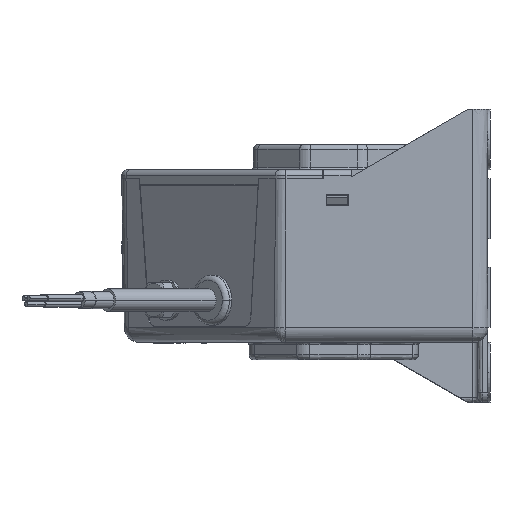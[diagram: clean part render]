
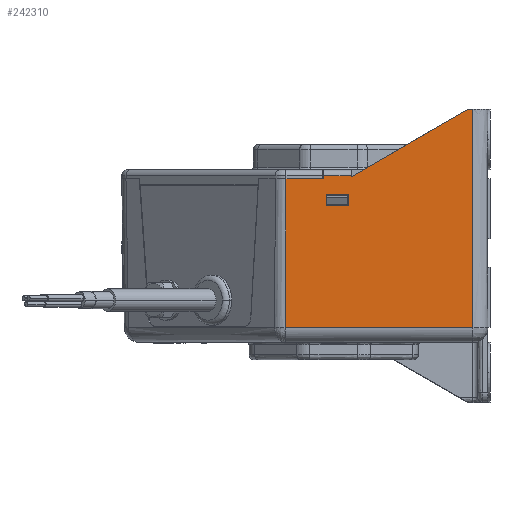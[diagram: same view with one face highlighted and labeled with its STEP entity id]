
A CAD part, left-side view. The second image highlights one B-rep face of the part: STEP entity #242310.
In plain terms, the highlighted planar face has unit normal (-1, 0, -0.018).
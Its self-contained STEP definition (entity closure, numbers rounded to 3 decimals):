
#6170=CARTESIAN_POINT('',(-42.944,1.45,29.4));
#6180=VERTEX_POINT('',#6170);
#6350=CARTESIAN_POINT('',(-42.906,1.45,27.2));
#6360=VERTEX_POINT('',#6350);
#6390=CARTESIAN_POINT('',(-42.431,1.45,0.));
#6400=DIRECTION('',(0.017,0.,-1.));
#6410=VECTOR('',#6400,1.);
#6420=LINE('',#6390,#6410);
#6430=EDGE_CURVE('',#6180,#6360,#6420,.T.);
#78200=CARTESIAN_POINT('',(-42.482,-27.751,
2.948));
#78210=VERTEX_POINT('',#78200);
#78240=CARTESIAN_POINT('',(-42.43,-27.751,-0.052
));
#78250=DIRECTION('',(0.017,0.,-1.));
#78260=VECTOR('',#78250,1.);
#78270=LINE('',#78240,#78260);
#78280=CARTESIAN_POINT('',(-43.241,-27.751,46.4));
#78290=VERTEX_POINT('',#78280);
#78300=EDGE_CURVE('',#78290,#78210,#78270,.T.);
#213330=CARTESIAN_POINT('',(-43.01,2.,
33.179));
#213340=VERTEX_POINT('',#213330);
#213370=CARTESIAN_POINT('',(-42.431,2.,0.));
#213380=DIRECTION('',(0.017,0.,
-1.));
#213390=VECTOR('',#213380,1.);
#213400=LINE('',#213370,#213390);
#213410=CARTESIAN_POINT('',(-43.,2.,32.6));
#213420=VERTEX_POINT('',#213410);
#213430=EDGE_CURVE('',#213340,#213420,#213400,.T.);
#221840=CARTESIAN_POINT('',(-42.482,9.659,
2.948));
#221850=VERTEX_POINT('',#221840);
#226280=CARTESIAN_POINT('',(-43.,9.508,
32.6));
#226290=VERTEX_POINT('',#226280);
#226320=CARTESIAN_POINT('',(-42.43,9.675,
-0.052));
#226330=DIRECTION('',(0.017,0.005,
-1.));
#226340=VECTOR('',#226330,1.);
#226350=LINE('',#226320,#226340);
#226360=EDGE_CURVE('',#226290,#221850,#226350,.T.);
#232400=CARTESIAN_POINT('',(-40.,9.507,32.6));
#232410=DIRECTION('',(0.,0.,1.));
#232420=DIRECTION('',(1.,0.,0.));
#232430=AXIS2_PLACEMENT_3D('',#232400,#232410,#232420);
#232440=CYLINDRICAL_SURFACE('',#232430,3.);
#232640=CARTESIAN_POINT('',(-40.,9.507,32.6));
#232650=DIRECTION('',(0.,0.,1.));
#232660=DIRECTION('',(1.,0.,0.));
#232670=AXIS2_PLACEMENT_3D('',#232640,#232650,#232660);
#232680=CIRCLE('',#232670,3.);
#237270=CARTESIAN_POINT('',(-42.482,-27.751,
2.948));
#237280=VERTEX_POINT('',#237270);
#241090=CARTESIAN_POINT('',(-42.944,-21.635,
29.372));
#241100=DIRECTION('',(-1.,0.,
-0.017));
#241110=DIRECTION('',(0.,-1.,0.));
#241120=AXIS2_PLACEMENT_3D('',#241090,#241100,#241110);
#241130=PLANE('',#241120);
#241140=CARTESIAN_POINT('',(-42.482,0.,
2.948));
#241150=DIRECTION('',(0.,-1.,0.));
#241160=VECTOR('',#241150,1.);
#241170=LINE('',#241140,#241160);
#241180=EDGE_CURVE('',#221850,#237280,#241170,.T.);
#241190=ORIENTED_EDGE('',*,*,#241180,.T.);
#241200=ORIENTED_EDGE('',*,*,#226360,.T.);
#241210=CARTESIAN_POINT('',(-43.,9.507,
32.6));
#241220=VERTEX_POINT('',#241210);
#241230=EDGE_CURVE('',#226290,#241220,#232680,.T.);
#241240=ORIENTED_EDGE('',*,*,#241230,.F.);
#241250=CARTESIAN_POINT('',(-43.,9.507,32.6));
#241260=CARTESIAN_POINT('',(-43.,9.507,32.6));
#241270=CARTESIAN_POINT('',(-43.,9.507,
32.6));
#241280=CARTESIAN_POINT('',(-43.,9.507,
32.6));
#241290=CARTESIAN_POINT('',(-43.,9.507,
32.6));
#241300=CARTESIAN_POINT('',(-43.,9.507,
32.6));
#241310=CARTESIAN_POINT('',(-43.,9.507,
32.6));
#241320=CARTESIAN_POINT('',(-43.,9.507,
32.6));
#241330=CARTESIAN_POINT('',(-43.,9.507,
32.6));
#241340=CARTESIAN_POINT('',(-43.,9.507,
32.6));
#241350=CARTESIAN_POINT('',(-43.,9.507,
32.6));
#241360=CARTESIAN_POINT('',(-43.,9.507,
32.6));
#241370=CARTESIAN_POINT('',(-43.,9.507,
32.6));
#241380=B_SPLINE_CURVE_WITH_KNOTS('',3,(#241250,#241260,#241270,#241280,
#241290,#241300,#241310,#241320,#241330,#241340,#241350,#241360,#241370)
,.UNSPECIFIED.,.F.,.F.,(4,3,3,3,4),(0.,0.,
0.,0.,0.),.UNSPECIFIED.
);
#241390=SURFACE_CURVE('',#241380,(#241130,#232440),.CURVE_3D.);
#241400=CARTESIAN_POINT('',(-43.,9.507,32.6));
#241410=VERTEX_POINT('',#241400);
#241420=EDGE_CURVE('',#241410,#241220,#241390,.T.);
#241430=ORIENTED_EDGE('',*,*,#241420,.T.);
#241440=CARTESIAN_POINT('',(-43.,0.,32.6));
#241450=DIRECTION('',(0.,1.,0.));
#241460=VECTOR('',#241450,1.);
#241470=LINE('',#241440,#241460);
#241480=CARTESIAN_POINT('',(-43.,2.15,32.6));
#241490=VERTEX_POINT('',#241480);
#241500=EDGE_CURVE('',#241490,#241410,#241470,.T.);
#241510=ORIENTED_EDGE('',*,*,#241500,.T.);
#241520=CARTESIAN_POINT('',(-43.,0.,32.6));
#241530=DIRECTION('',(0.,-1.,0.));
#241540=VECTOR('',#241530,1.);
#241550=LINE('',#241520,#241540);
#241560=EDGE_CURVE('',#241490,#213420,#241550,.T.);
#241570=ORIENTED_EDGE('',*,*,#241560,.F.);
#241580=ORIENTED_EDGE('',*,*,#213430,.T.);
#241590=CARTESIAN_POINT('',(-43.01,0.,
33.179));
#241600=DIRECTION('',(0.,1.,0.));
#241610=VECTOR('',#241600,1.);
#241620=LINE('',#241590,#241610);
#241630=CARTESIAN_POINT('',(-43.01,-3.5,
33.179));
#241640=VERTEX_POINT('',#241630);
#241650=EDGE_CURVE('',#241640,#213340,#241620,.T.);
#241660=ORIENTED_EDGE('',*,*,#241650,.T.);
#241670=CARTESIAN_POINT('',(-42.431,-3.5,0.));
#241680=DIRECTION('',(-0.017,0.,
1.));
#241690=VECTOR('',#241680,1.);
#241700=LINE('',#241670,#241690);
#241710=CARTESIAN_POINT('',(-43.007,-3.5,
32.977));
#241720=VERTEX_POINT('',#241710);
#241730=EDGE_CURVE('',#241720,#241640,#241700,.T.);
#241740=ORIENTED_EDGE('',*,*,#241730,.T.);
#241750=CARTESIAN_POINT('',(-42.971,0.,30.956));
#241760=DIRECTION('',(0.009,0.866,
-0.5));
#241770=VECTOR('',#241760,1.);
#241780=LINE('',#241750,#241770);
#241790=CARTESIAN_POINT('',(-43.241,-26.75,46.4));
#241800=VERTEX_POINT('',#241790);
#241810=EDGE_CURVE('',#241800,#241720,#241780,.T.);
#241820=ORIENTED_EDGE('',*,*,#241810,.T.);
#241830=CARTESIAN_POINT('',(-43.241,0.,46.4));
#241840=DIRECTION('',(0.,-1.,0.));
#241850=VECTOR('',#241840,1.);
#241860=LINE('',#241830,#241850);
#241870=EDGE_CURVE('',#241800,#78290,#241860,.T.);
#241880=ORIENTED_EDGE('',*,*,#241870,.F.);
#241890=ORIENTED_EDGE('',*,*,#78300,.F.);
#241900=CARTESIAN_POINT('',(-42.482,-27.751,
2.948));
#241910=CARTESIAN_POINT('',(-42.482,-27.751,
2.948));
#241920=CARTESIAN_POINT('',(-42.482,-27.751,
2.948));
#241930=CARTESIAN_POINT('',(-42.482,-27.751,
2.948));
#241940=CARTESIAN_POINT('',(-42.482,-27.751,
2.948));
#241950=CARTESIAN_POINT('',(-42.482,-27.751,
2.948));
#241960=CARTESIAN_POINT('',(-42.482,-27.751,
2.948));
#241970=CARTESIAN_POINT('',(-42.482,-27.751,
2.948));
#241980=CARTESIAN_POINT('',(-42.482,-27.751,
2.948));
#241990=CARTESIAN_POINT('',(-42.482,-27.751,
2.948));
#242000=CARTESIAN_POINT('',(-42.482,-27.751,
2.948));
#242010=B_SPLINE_CURVE_WITH_KNOTS('',3,(#241900,#241910,#241920,#241930,
#241940,#241950,#241960,#241970,#241980,#241990,#242000),.UNSPECIFIED.,
.F.,.F.,(4,2,3,2,4),(0.,0.01,0.013,
0.016,0.026),.UNSPECIFIED.);
#242020=EDGE_CURVE('',#237280,#78210,#242010,.T.);
#242030=ORIENTED_EDGE('',*,*,#242020,.T.);
#242040=EDGE_LOOP('',(#242030,#241890,#241880,#241820,#241740,#241660,
#241580,#241570,#241510,#241430,#241240,#241200,#241190));
#242050=FACE_OUTER_BOUND('',#242040,.T.);
#242060=CARTESIAN_POINT('',(-42.944,0.,29.4));
#242070=DIRECTION('',(0.,1.,0.));
#242080=VECTOR('',#242070,1.);
#242090=LINE('',#242060,#242080);
#242100=CARTESIAN_POINT('',(-42.944,-2.95,29.4));
#242110=VERTEX_POINT('',#242100);
#242120=EDGE_CURVE('',#242110,#6180,#242090,.T.);
#242130=ORIENTED_EDGE('',*,*,#242120,.F.);
#242140=ORIENTED_EDGE('',*,*,#6430,.F.);
#242150=CARTESIAN_POINT('',(-42.906,0.,27.2));
#242160=DIRECTION('',(0.,1.,0.));
#242170=VECTOR('',#242160,1.);
#242180=LINE('',#242150,#242170);
#242190=CARTESIAN_POINT('',(-42.906,-2.95,27.2));
#242200=VERTEX_POINT('',#242190);
#242210=EDGE_CURVE('',#242200,#6360,#242180,.T.);
#242220=ORIENTED_EDGE('',*,*,#242210,.T.);
#242230=CARTESIAN_POINT('',(-42.431,-2.95,0.));
#242240=DIRECTION('',(-0.017,0.,
1.));
#242250=VECTOR('',#242240,1.);
#242260=LINE('',#242230,#242250);
#242270=EDGE_CURVE('',#242200,#242110,#242260,.T.);
#242280=ORIENTED_EDGE('',*,*,#242270,.F.);
#242290=EDGE_LOOP('',(#242280,#242220,#242140,#242130));
#242300=FACE_BOUND('',#242290,.T.);
#242310=ADVANCED_FACE('',(#242050,#242300),#241130,.T.);
